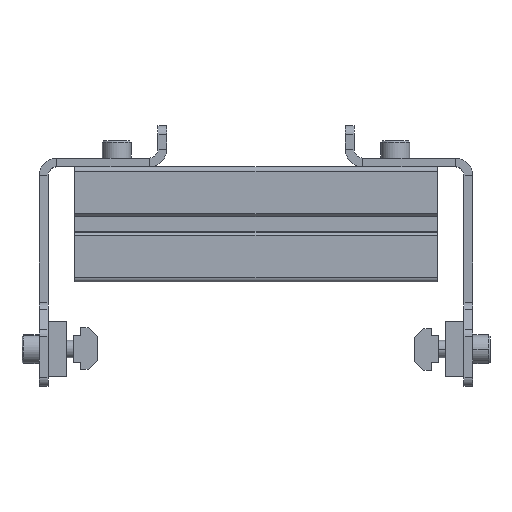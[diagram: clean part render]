
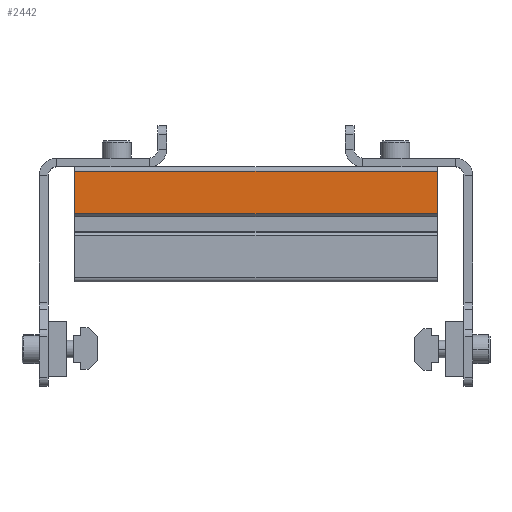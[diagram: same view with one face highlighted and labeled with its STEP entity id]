
A CAD part, top view. The second image highlights one B-rep face of the part: STEP entity #2442.
In plain terms, the highlighted planar face has unit normal (0, 0, 1) as drawn and (0, 1, 0) by its records, which use the part's own axes.
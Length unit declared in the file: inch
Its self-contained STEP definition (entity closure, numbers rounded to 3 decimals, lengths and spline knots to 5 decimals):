
#28 = CARTESIAN_POINT ( 'NONE',  ( 0.7875, 0.441, 2.48 ) ) ;
#240 = VERTEX_POINT ( 'NONE', #6554 ) ;
#701 = DIRECTION ( 'NONE',  ( 0., 0., 1. ) ) ;
#739 = VERTEX_POINT ( 'NONE', #8339 ) ;
#789 = LINE ( 'NONE', #28, #5309 ) ;
#846 = FACE_OUTER_BOUND ( 'NONE', #6182, .T. ) ;
#1262 = EDGE_CURVE ( 'NONE', #6566, #739, #7093, .T. ) ;
#1311 = CARTESIAN_POINT ( 'NONE',  ( 0.7875, 0.441, -2.48 ) ) ;
#2200 = ORIENTED_EDGE ( 'NONE', *, *, #4808, .F. ) ;
#2442 = ADVANCED_FACE ( 'NONE', ( #846 ), #5994, .F. ) ;
#2625 = VERTEX_POINT ( 'NONE', #7052 ) ;
#2812 = DIRECTION ( 'NONE',  ( 0., 0., 1. ) ) ;
#2883 = DIRECTION ( 'NONE',  ( 1., 0., 0. ) ) ;
#3197 = EDGE_CURVE ( 'NONE', #2625, #240, #789, .T. ) ;
#4808 = EDGE_CURVE ( 'NONE', #739, #2625, #6776, .T. ) ;
#5019 = AXIS2_PLACEMENT_3D ( 'NONE', #6206, #5481, #6792 ) ;
#5049 = ORIENTED_EDGE ( 'NONE', *, *, #1262, .F. ) ;
#5173 = LINE ( 'NONE', #7082, #5497 ) ;
#5309 = VECTOR ( 'NONE', #7802, 39.37008 ) ;
#5481 = DIRECTION ( 'NONE',  ( 0., -1., 0. ) ) ;
#5497 = VECTOR ( 'NONE', #701, 39.37008 ) ;
#5522 = VECTOR ( 'NONE', #2812, 39.37008 ) ;
#5956 = EDGE_CURVE ( 'NONE', #6566, #240, #5173, .T. ) ;
#5994 = PLANE ( 'NONE',  #5019 ) ;
#6182 = EDGE_LOOP ( 'NONE', ( #2200, #5049, #7270, #7476 ) ) ;
#6206 = CARTESIAN_POINT ( 'NONE',  ( -0.7875, 0.441, 75. ) ) ;
#6311 = VECTOR ( 'NONE', #2883, 39.37008 ) ;
#6393 = CARTESIAN_POINT ( 'NONE',  ( -0.725, 0.441, -2.48 ) ) ;
#6554 = CARTESIAN_POINT ( 'NONE',  ( -0.725, 0.441, 2.48 ) ) ;
#6566 = VERTEX_POINT ( 'NONE', #6393 ) ;
#6776 = LINE ( 'NONE', #7412, #5522 ) ;
#6792 = DIRECTION ( 'NONE',  ( 0., 0., -1. ) ) ;
#7052 = CARTESIAN_POINT ( 'NONE',  ( -0.14758, 0.441, 2.48 ) ) ;
#7082 = CARTESIAN_POINT ( 'NONE',  ( -0.725, 0.441, 75. ) ) ;
#7093 = LINE ( 'NONE', #1311, #6311 ) ;
#7270 = ORIENTED_EDGE ( 'NONE', *, *, #5956, .T. ) ;
#7412 = CARTESIAN_POINT ( 'NONE',  ( -0.14758, 0.441, -75. ) ) ;
#7476 = ORIENTED_EDGE ( 'NONE', *, *, #3197, .F. ) ;
#7802 = DIRECTION ( 'NONE',  ( -1., 0., 0. ) ) ;
#8339 = CARTESIAN_POINT ( 'NONE',  ( -0.14758, 0.441, -2.48 ) ) ;
